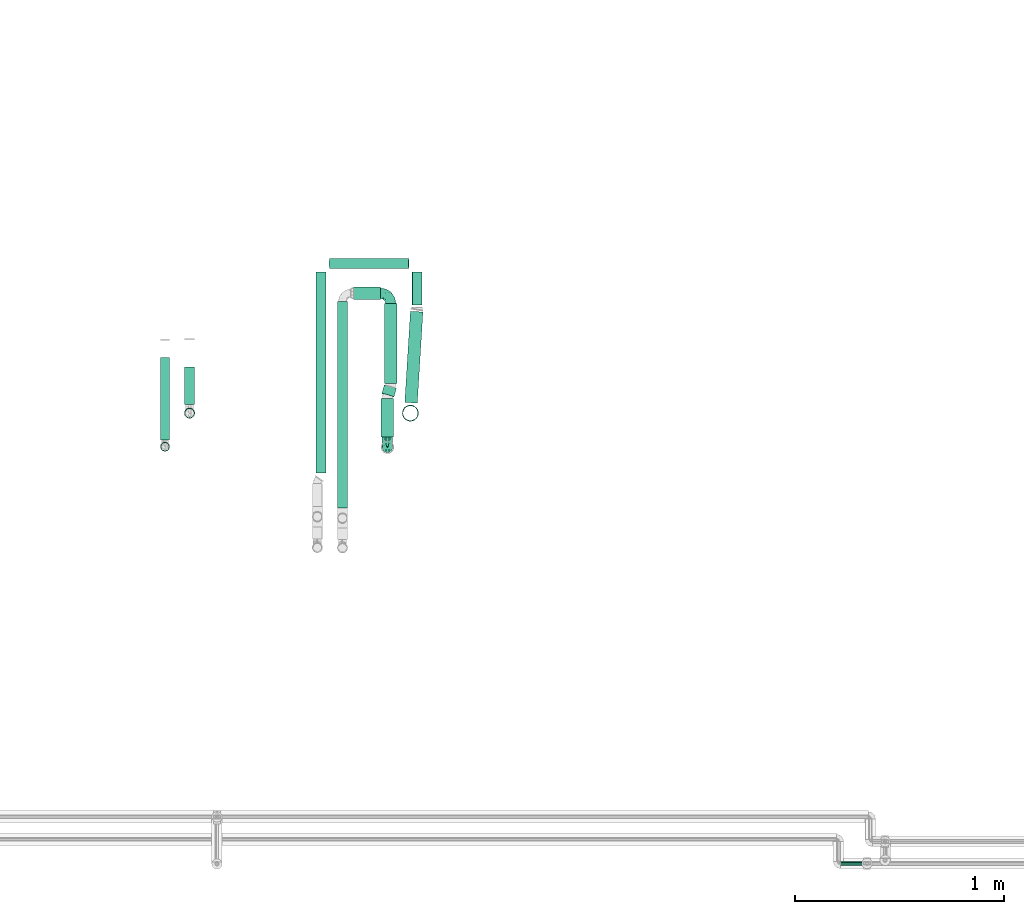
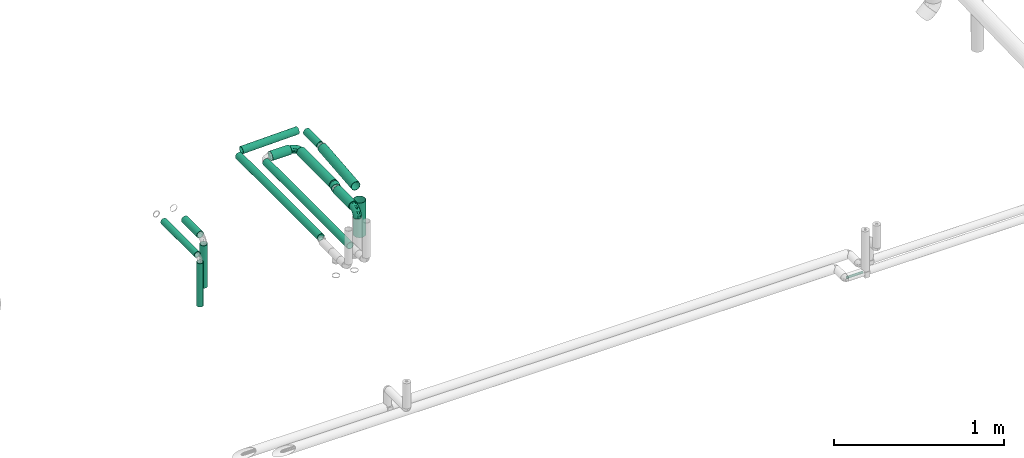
# One storey, part 75 of 156: 15 flow segments, 2 flow fittings.
"""IFC2X3 building model written with IfcOpenShell, lengths in millimetres."""

from ifc_helpers import new_model, entity, si_unit, converted_unit, derived_unit, direction, frame, origin_with_axes, origin_2d_with_axis, place, context, subcontext, project, spatial, hollow_circle, extrude, open_shell, surface_model, source, transform, mapped, type_object, element, save


model = new_model("IFC2X3")

# Units and contexts
model_context = context("Model", 3, precision=0.01, world=frame((0.0, 4.29681676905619e-09, 0.0)), true_north=direction((4.01073788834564e-13, 1.0)))
plan_context = context("Plan", 3, precision=0.01, world=frame((0.0, 4.29681676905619e-09, 0.0)), true_north=direction((4.01073788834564e-13, 1.0)))
body_context = subcontext(model_context, "Body", "Model", "MODEL_VIEW")
ifc_project = project(units=[converted_unit("PLANEANGLEUNIT", "DEGREE", entity("IfcPositiveLengthMeasure", 0.0174532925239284), si_unit("PLANEANGLEUNIT", "RADIAN"), dimensions=[0, 0, 0, 0, 0, 0, 0]), si_unit("AREAUNIT", "SQUARE_METRE"), si_unit("LENGTHUNIT", "METRE", prefix="MILLI"), si_unit("MASSUNIT", "GRAM", prefix="KILO"), si_unit("POWERUNIT", "WATT"), si_unit("PRESSUREUNIT", "PASCAL", prefix="KILO"), si_unit("FORCEUNIT", "NEWTON", prefix="KILO"), si_unit("ELECTRICVOLTAGEUNIT", "VOLT"), si_unit("ELECTRICCURRENTUNIT", "AMPERE"), si_unit("THERMODYNAMICTEMPERATUREUNIT", "DEGREE_CELSIUS"), si_unit("TIMEUNIT", "SECOND"), si_unit("VOLUMEUNIT", "CUBIC_METRE"), derived_unit("LINEARVELOCITYUNIT", [(si_unit("LENGTHUNIT", "METRE"), 1), (si_unit("TIMEUNIT", "SECOND"), -1)]), derived_unit("VOLUMETRICFLOWRATEUNIT", [(si_unit("VOLUMEUNIT", "CUBIC_METRE"), 1), (si_unit("TIMEUNIT", "SECOND"), -1)]), derived_unit("THERMALTRANSMITTANCEUNIT", [(si_unit("POWERUNIT", "WATT"), 1), (si_unit("THERMODYNAMICTEMPERATUREUNIT", "KELVIN"), -1), (si_unit("AREAUNIT", "SQUARE_METRE"), -1)]), derived_unit("SOUNDPRESSUREUNIT", [(si_unit("PRESSUREUNIT", "PASCAL"), 1)])], contexts=[model_context, plan_context])

# Site, building, storey
site_placement = place(None, frame((0.0, -4.29681676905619e-09, 0.0), z_axis=(0.0, 0.0, 1.0), x_axis=(1.0, 0.0, 0.0)))
site = spatial("IfcSite", under=ifc_project, at=site_placement, CompositionType="ELEMENT")
building_placement = place(site_placement, frame((0.0, 4.29681676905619e-09, 0.0), z_axis=(0.0, 0.0, 1.0), x_axis=(1.0, 0.0, 0.0)))
building = spatial("IfcBuilding", under=site, at=building_placement, Name="mc-building", CompositionType="ELEMENT")
storey_placement = place(building_placement, frame((0.0, 0.0, 205200.0), z_axis=(0.0, 0.0, 1.0), x_axis=(1.0, 0.0, 0.0)))
storey = spatial("IfcBuildingStorey", under=building, at=storey_placement, Name="Nivå D + 1,2 m", CompositionType="ELEMENT", Elevation=205200.0)

# Flow fittings
pipe_fitting_type = type_object("IfcPipeFittingType", Name="magi_pipe_elbow_short_001", PredefinedType="BEND")
shared_shape_1 = source(origin_with_axes(), body_context, "Body", "SurfaceModel", [
    surface_model("IfcShellBasedSurfaceModel", [(-50.0, 6.47048, -24.14815), (-50.0, 0.0, -25.0), (-50.0, 24.14815, -6.47048), (-50.0, 12.5, -21.65064), (-50.0, 21.65064, -12.5), (-50.0, 17.67767, -17.67767), (-50.0, -17.67767, -17.67767), (-50.0, -12.5, -21.65064), (-50.0, -6.47048, -24.14815), (-50.0, -21.65064, -12.5), (-50.0, -24.14815, -6.47048), (-50.0, -24.14815, 6.47048), (-50.0, -25.0, 0.0), (-50.0, 24.14815, 6.47048), (-50.0, 21.65064, 12.5), (-50.0, 6.47048, 24.14815), (-50.0, 12.5, 21.65064), (-50.0, 17.67767, 17.67767), (-50.0, -12.5, 21.65064), (-50.0, -21.65064, 12.5), (-50.0, -17.67767, 17.67767), (-50.0, -6.47048, 24.14815), (-50.0, 0.0, 25.0), (-50.0, 25.0, 0.0), (-24.14815, 50.0, -6.47048), (0.0, 50.0, -25.0), (-6.47048, 50.0, -24.14815), (-12.5, 50.0, -21.65064), (-17.67767, 50.0, -17.67767), (-21.65064, 50.0, -12.5), (17.67767, 50.0, -17.67767), (6.47048, 50.0, -24.14815), (12.5, 50.0, -21.65064), (24.14815, 50.0, -6.47048), (21.65064, 50.0, -12.5), (25.0, 50.0, 0.0), (-25.0, 50.0, 0.0), (-6.47048, 50.0, 24.14815), (-24.14815, 50.0, 6.47048), (-17.67767, 50.0, 17.67767), (-21.65064, 50.0, 12.5), (-12.5, 50.0, 21.65064), (12.5, 50.0, 21.65064), (24.14815, 50.0, 6.47048), (17.67767, 50.0, 17.67767), (21.65064, 50.0, 12.5), (6.47048, 50.0, 24.14815), (0.0, 50.0, 25.0), (-36.67735, -19.42227, 14.03433), (-32.82968, -14.42335, 18.62892), (-35.64937, -22.14548, 0.0), (-22.09962, -15.92094, 12.6179), (-33.22625, -21.82028, 7.797), (21.82028, 33.22625, 7.797), (17.64067, 19.58414, 6.40882), (19.29096, 21.29874, 0.0), (-24.43766, 39.90136, 10.86587), (-20.88421, 38.92216, 16.42417), (-36.74567, -9.45359, 22.49231), (-38.192, -3.31182, 24.57244), (-35.00811, 3.83216, 24.95739), (-9.13287, -11.16199, 0.0), (-19.58414, -17.64067, 6.40882), (-21.29874, -19.29096, 0.0), (-19.31524, -6.06759, 20.7695), (-24.88984, -0.22435, 24.23133), (-2.15147, -4.22615, 11.26442), (-0.41902, 0.51586, 14.93357), (-8.49829, -5.98681, 15.40266), (-39.08085, 20.84056, 16.4067), (-8.68866, 24.58498, 24.95514), (-18.51786, 18.51786, 24.39255), (-14.88627, 10.92479, 24.87122), (-43.25329, 15.13957, 20.3706), (-9.33205, 43.12334, 23.41697), (-3.42635, 37.39647, 24.9386), (-39.91378, 24.43361, 10.86421), (-39.52416, 26.62869, 5.49664), (-31.04081, 31.04081, 9.34521), (-38.53768, 9.80489, 23.61608), (-6.5257, 16.74435, 24.54744), (-12.42199, 4.5863, 23.34496), (-2.55398, 13.50681, 22.9747), (-4.46571, 4.46571, 20.43962), (14.42335, 32.82968, 18.62892), (15.92094, 22.09962, 12.6179), (19.42227, 36.67735, 14.03433), (-26.57791, 16.96315, 23.12353), (-27.47187, 10.70867, 24.55261), (3.31182, 38.192, 24.57244), (9.45359, 36.74567, 22.49231), (6.06759, 19.31524, 20.7695), (22.14548, 35.64937, 0.0), (-24.53158, 6.12607, 24.98933), (-23.14362, 26.40038, 20.54252), (-34.42614, 16.97043, 21.05258), (-26.31567, 40.33071, 5.36329), (-31.33209, 32.79034, 4.39983), (11.41104, 20.24921, 17.09898), (-28.34936, 37.5, 0.0), (-10.81204, 33.87561, 23.80901), (-14.26605, 25.87925, 24.03265), (-18.12489, 32.31264, 21.01179), (-19.91717, 24.20374, 22.74716), (-15.27322, 41.92094, 20.47431), (-20.24921, -11.41104, 17.09898), (-25.92754, 33.13968, 14.14974), (-26.35258, 27.91972, 17.70863), (-32.10875, 26.86285, 13.94058), (0.22435, 24.88984, 24.23133), (5.69292, 8.68334, 15.83541), (-11.86567, -11.15996, 11.73483), (1.48439, -3.24717, 6.76648), (7.59176, 4.45273, 8.73079), (7.75387, 2.59512, 3.74652), (12.87658, 10.42821, 5.90505), (12.55206, 12.96891, 10.49254), (-37.5, 28.34936, 0.0), (-6.73798, -9.94178, 7.2586), (3.03301, -3.03301, 0.0), (11.16199, 9.13287, 0.0), (-20.24921, -11.41104, -17.09898), (-32.82968, -14.42335, -18.62892), (-19.31524, -6.06759, -20.7695), (-22.09962, -15.92095, -12.6179), (-38.92216, 20.88421, -16.42417), (-41.92094, 15.27322, -20.47431), (-40.33071, 26.31567, -5.36329), (-33.22625, -21.82028, -7.797), (-31.04081, 31.0408, -9.34521), (-39.90136, 24.43766, -10.86587), (-19.58414, -17.64067, -6.40882), (-24.20374, 19.91717, -22.74716), (-25.87925, 14.26604, -24.03266), (-32.31264, 18.12489, -21.01179), (-15.13957, 43.25329, -20.3706), (-20.84057, 39.08085, -16.4067), (9.45359, 36.74567, -22.49231), (6.06759, 19.31524, -20.7695), (0.22435, 24.88984, -24.23133), (-43.12334, 9.33205, -23.41697), (-36.67735, -19.42227, -14.03433), (-36.74567, -9.45359, -22.49231), (-16.96315, 26.5779, -23.12354), (-9.80489, 38.53768, -23.61608), (-10.70867, 27.47187, -24.55261), (-38.192, -3.31182, -24.57244), (-24.58498, 8.68866, -24.95514), (-18.51786, 18.51786, -24.39255), (-10.92479, 14.88627, -24.87122), (-37.39647, 3.42635, -24.9386), (-26.62869, 39.52416, -5.49664), (-24.43361, 39.91378, -10.86421), (-33.87561, 10.81204, -23.80901), (-32.79034, 31.33209, -4.39983), (-6.12607, 24.53158, -24.98933), (-26.40038, 23.14362, -20.54252), (-16.97043, 34.42613, -21.05258), (3.31182, 38.192, -24.57244), (-3.83216, 35.00811, -24.95739), (19.42227, 36.67735, -14.03433), (14.42335, 32.82968, -18.62892), (7.75387, 2.59513, -3.74652), (12.87658, 10.42822, -5.90505), (-16.74435, 6.5257, -24.54744), (-4.5863, 12.42199, -23.34496), (-13.50681, 2.55398, -22.9747), (1.48439, -3.24717, -6.76647), (-6.73799, -9.94178, -7.2586), (-2.15147, -4.22615, -11.26442), (15.92094, 22.09962, -12.6179), (21.82028, 33.22625, -7.797), (17.64067, 19.58414, -6.40882), (-33.13968, 25.92753, -14.14974), (11.41104, 20.24921, -17.09898), (12.55206, 12.96891, -10.49254), (5.69292, 8.68334, -15.83541), (-27.91972, 26.35258, -17.70863), (-26.86285, 32.10875, -13.94058), (-24.88984, -0.22435, -24.23133), (-4.46571, 4.46571, -20.43962), (-8.49829, -5.98681, -15.40266), (-11.86568, -11.15996, -11.73483), (-0.41902, 0.51586, -14.93357), (7.59175, 4.45273, -8.73079)], [open_shell([[[0, 1, 2]], [[3, 0, 2]], [[3, 2, 4]], [[5, 3, 4]], [[6, 2, 1]], [[7, 6, 8]], [[6, 1, 8]], [[9, 10, 6]], [[10, 11, 6]], [[12, 11, 10]], [[2, 6, 13]], [[13, 6, 11]], [[14, 13, 15]], [[15, 16, 17]], [[14, 15, 17]], [[15, 13, 18]], [[19, 20, 11]], [[18, 11, 20]], [[11, 18, 13]], [[18, 21, 15]], [[21, 22, 15]], [[23, 2, 13]], [[24, 25, 26]], [[24, 26, 27]], [[28, 29, 24]], [[28, 24, 27]], [[25, 24, 30]], [[31, 30, 32]], [[31, 25, 30]], [[30, 33, 34]], [[30, 24, 33]], [[35, 33, 24]], [[24, 36, 35]], [[37, 36, 38]], [[39, 38, 40]], [[41, 37, 38]], [[41, 38, 39]], [[36, 37, 42]], [[43, 44, 45]], [[44, 43, 42]], [[36, 42, 43]], [[37, 46, 42]], [[37, 47, 46]], [[36, 43, 35]], [[20, 48, 49]], [[11, 12, 50]], [[51, 48, 52]], [[53, 54, 55]], [[48, 20, 19]], [[11, 52, 19]], [[40, 56, 57]], [[49, 18, 20]], [[49, 58, 18]], [[22, 59, 60]], [[61, 62, 63]], [[58, 64, 65]], [[66, 67, 68]], [[14, 17, 69]], [[70, 71, 72]], [[16, 73, 17]], [[21, 59, 22]], [[37, 74, 75]], [[22, 60, 15]], [[14, 69, 76]], [[17, 73, 69]], [[23, 13, 77]], [[13, 14, 76]], [[77, 76, 78]], [[15, 79, 16]], [[80, 81, 82]], [[68, 83, 64]], [[84, 44, 42]], [[85, 86, 84]], [[87, 79, 88]], [[18, 58, 21]], [[47, 89, 46]], [[53, 43, 45]], [[47, 37, 75]], [[84, 90, 91]], [[45, 86, 53]], [[92, 43, 53]], [[86, 45, 44]], [[90, 42, 46]], [[53, 55, 92]], [[88, 93, 72]], [[54, 53, 85]], [[87, 94, 95]], [[78, 96, 97]], [[98, 84, 91]], [[99, 96, 36]], [[79, 15, 60]], [[96, 78, 56]], [[62, 52, 63]], [[57, 39, 40]], [[100, 70, 75]], [[101, 102, 103]], [[11, 50, 52]], [[104, 41, 39]], [[74, 37, 41]], [[57, 102, 104]], [[105, 64, 49]], [[90, 84, 42]], [[40, 38, 56]], [[56, 106, 57]], [[102, 57, 107]], [[95, 107, 69]], [[76, 108, 78]], [[100, 101, 70]], [[89, 75, 109]], [[64, 58, 49]], [[63, 52, 50]], [[59, 58, 65]], [[105, 49, 51]], [[64, 83, 81]], [[89, 90, 46]], [[35, 43, 92]], [[109, 82, 91]], [[109, 91, 90]], [[91, 83, 110]], [[111, 68, 105]], [[66, 68, 111]], [[62, 51, 52]], [[66, 112, 113]], [[114, 115, 113]], [[98, 85, 84]], [[52, 48, 19]], [[49, 48, 51]], [[84, 86, 44]], [[53, 86, 85]], [[88, 79, 60]], [[73, 79, 95]], [[96, 56, 38]], [[78, 108, 106]], [[87, 103, 94]], [[100, 74, 104]], [[108, 69, 107]], [[78, 97, 77]], [[88, 72, 71]], [[109, 75, 70]], [[81, 72, 65]], [[70, 72, 80]], [[75, 89, 47]], [[90, 89, 109]], [[58, 59, 21]], [[60, 59, 65]], [[67, 83, 68]], [[110, 113, 116]], [[88, 60, 93]], [[87, 88, 71]], [[103, 87, 71]], [[79, 87, 95]], [[101, 103, 71]], [[94, 103, 102]], [[36, 96, 38]], [[96, 99, 97]], [[99, 117, 97]], [[97, 117, 77]], [[23, 77, 117]], [[13, 76, 77]], [[60, 65, 93]], [[65, 72, 93]], [[70, 101, 71]], [[102, 101, 100]], [[69, 108, 76]], [[106, 108, 107]], [[57, 106, 107]], [[78, 106, 56]], [[57, 104, 39]], [[100, 104, 102]], [[102, 107, 94]], [[95, 94, 107]], [[64, 81, 65]], [[82, 81, 83]], [[91, 82, 83]], [[80, 82, 109]], [[70, 80, 109]], [[81, 80, 72]], [[79, 73, 16]], [[69, 73, 95]], [[104, 74, 41]], [[75, 74, 100]], [[62, 61, 118]], [[111, 62, 118]], [[113, 115, 116]], [[119, 118, 61]], [[111, 105, 51]], [[113, 112, 114]], [[120, 55, 54]], [[68, 64, 105]], [[91, 110, 98]], [[116, 98, 110]], [[62, 111, 51]], [[66, 111, 118]], [[112, 66, 118]], [[67, 113, 110]], [[118, 119, 112]], [[114, 112, 119]], [[119, 120, 114]], [[115, 120, 54]], [[120, 115, 114]], [[116, 54, 85]], [[54, 116, 115]], [[116, 85, 98]], [[113, 67, 66]], [[83, 67, 110]], [[121, 122, 123]], [[122, 121, 124]], [[4, 125, 5]], [[5, 126, 3]], [[117, 127, 23]], [[50, 10, 128]], [[127, 129, 130]], [[128, 131, 63]], [[132, 133, 134]], [[28, 135, 136]], [[137, 138, 139]], [[3, 140, 0]], [[128, 9, 141]], [[142, 7, 8]], [[128, 63, 50]], [[4, 2, 130]], [[9, 6, 141]], [[143, 144, 145]], [[146, 8, 1]], [[147, 148, 149]], [[9, 128, 10]], [[124, 141, 122]], [[150, 1, 0]], [[151, 152, 129]], [[125, 134, 126]], [[153, 147, 150]], [[127, 154, 129]], [[145, 155, 149]], [[36, 24, 151]], [[143, 156, 157]], [[152, 24, 29]], [[25, 158, 159]], [[122, 6, 7]], [[28, 27, 135]], [[144, 27, 26]], [[30, 160, 161]], [[25, 31, 158]], [[120, 162, 163]], [[130, 125, 4]], [[28, 136, 29]], [[0, 140, 150]], [[32, 161, 137]], [[142, 122, 7]], [[25, 159, 26]], [[164, 165, 166]], [[167, 168, 169]], [[34, 160, 30]], [[161, 32, 30]], [[170, 160, 171]], [[131, 128, 124]], [[35, 92, 33]], [[33, 92, 171]], [[172, 171, 55]], [[33, 171, 34]], [[144, 26, 159]], [[130, 173, 125]], [[174, 175, 176]], [[136, 152, 29]], [[32, 137, 31]], [[122, 142, 123]], [[134, 125, 177]], [[157, 177, 136]], [[152, 178, 129]], [[153, 133, 147]], [[146, 150, 179]], [[146, 142, 8]], [[12, 10, 50]], [[179, 166, 123]], [[179, 123, 142]], [[123, 180, 181]], [[138, 137, 161]], [[55, 171, 92]], [[158, 137, 139]], [[174, 161, 170]], [[138, 180, 165]], [[180, 138, 176]], [[124, 121, 182]], [[176, 183, 180]], [[61, 131, 168]], [[169, 168, 182]], [[172, 170, 171]], [[122, 141, 6]], [[128, 141, 124]], [[171, 160, 34]], [[161, 160, 170]], [[145, 144, 159]], [[135, 144, 157]], [[127, 130, 2]], [[129, 178, 173]], [[143, 132, 156]], [[153, 140, 126]], [[178, 136, 177]], [[129, 154, 151]], [[145, 149, 148]], [[179, 150, 147]], [[165, 149, 139]], [[147, 149, 164]], [[150, 146, 1]], [[142, 146, 179]], [[137, 158, 31]], [[159, 158, 139]], [[174, 138, 161]], [[184, 169, 183]], [[145, 159, 155]], [[143, 145, 148]], [[132, 143, 148]], [[144, 143, 157]], [[133, 132, 148]], [[156, 132, 134]], [[23, 127, 2]], [[127, 117, 154]], [[117, 99, 154]], [[154, 99, 151]], [[36, 151, 99]], [[24, 152, 151]], [[159, 139, 155]], [[139, 149, 155]], [[147, 133, 148]], [[134, 133, 153]], [[136, 178, 152]], [[173, 178, 177]], [[125, 173, 177]], [[129, 173, 130]], [[125, 126, 5]], [[153, 126, 134]], [[134, 177, 156]], [[157, 156, 177]], [[138, 165, 139]], [[166, 165, 180]], [[123, 166, 180]], [[164, 166, 179]], [[147, 164, 179]], [[165, 164, 149]], [[144, 135, 27]], [[136, 135, 157]], [[126, 140, 3]], [[150, 140, 153]], [[182, 131, 124]], [[168, 119, 61]], [[119, 167, 162]], [[63, 131, 61]], [[172, 163, 175]], [[172, 55, 120]], [[123, 181, 121]], [[182, 121, 181]], [[175, 174, 170]], [[176, 138, 174]], [[169, 182, 181]], [[131, 182, 168]], [[183, 169, 181]], [[167, 169, 184]], [[162, 167, 184]], [[119, 168, 167]], [[163, 162, 184]], [[120, 119, 162]], [[175, 163, 184]], [[120, 163, 172]], [[176, 175, 184]], [[172, 175, 170]], [[180, 183, 181]], [[184, 183, 176]]])]),
])
for number, where, z_axis, x_axis, name in (
    (1, (343848.85487, 460803.54788, 4254.42444999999), (-1.0, 0.0, 0.0), (0.0, 0.0, 1.0), "magi_pipe_elbow_short_001"),
    (2, (343864.59753, 461539.79788, 4249.39240000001), (0.0, 0.0, 1.0), (0.0, 1.0, 0.0), "magi_pipe_elbow_short_001"),
):
    element("IfcFlowFitting", number, at=place(storey_placement, frame(where, z_axis=z_axis, x_axis=x_axis)), inside=storey, type_object=pipe_fitting_type, Name=name, context=body_context, shape_type="MappedRepresentation", body=[
        mapped(shared_shape_1, transform((0.0, 0.0, 0.0), scale=1.0)),
    ])

# Flow segments
pipe_segment_type = type_object("IfcPipeSegmentType", Name="Stålrør normaltykke", PredefinedType="RIGIDSEGMENT")
shared_shape_2 = source(origin_with_axes(), body_context, "Body", "SweptSolid", [
    extrude(hollow_circle(Radius=21.2, WallThickness=2.0, at=origin_2d_with_axis()), frame((0.0, 0.0, 0.0), z_axis=(1.0, 0.0, 0.0), x_axis=(0.0, 1.0, 0.0)), (0.0, 0.0, 1.0), 310.9),
])
flow_segment_1_placement = place(storey_placement, frame((342785.41942, 460806.04788, 3941.57445000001), z_axis=(0.0, 1.0, 0.0), x_axis=(0.0, 0.0, 1.0)))
element("IfcFlowSegment", 3, at=flow_segment_1_placement, inside=storey, type_object=pipe_segment_type, Name="Stålrør normaltykke", context=body_context, shape_type="MappedRepresentation", body=[
    mapped(shared_shape_2, transform((0.0, 0.0, 0.0), scale=1.0)),
])
shared_shape_3 = source(origin_with_axes(), body_context, "Body", "SweptSolid", [
    extrude(hollow_circle(Radius=30.1, WallThickness=2.0, at=origin_2d_with_axis()), frame((0.0, 0.0, 0.0), z_axis=(1.0, 0.0, 0.0), x_axis=(0.0, 1.0, 0.0)), (0.0, 0.0, 1.0), 382.6),
])
flow_segment_2_placement = place(storey_placement, frame((343864.59753, 461107.23306, 4249.39240000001), z_axis=(-0.952522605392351, 0.0, 0.304467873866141), x_axis=(0.0, 1.0, 0.0)))
element("IfcFlowSegment", 4, at=flow_segment_2_placement, inside=storey, type_object=pipe_segment_type, Name="Stålrør normaltykke", context=body_context, shape_type="MappedRepresentation", body=[
    mapped(shared_shape_3, transform((0.0, 0.0, 0.0), scale=1.0)),
])
shared_shape_4 = source(origin_with_axes(), body_context, "Body", "SweptSolid", [
    extrude(hollow_circle(Radius=30.1, WallThickness=2.0, at=origin_2d_with_axis()), frame((0.0, 0.0, 0.0), z_axis=(1.0, 0.0, 0.0), x_axis=(0.0, 1.0, 0.0)), (0.0, 0.0, 1.0), 128.7),
])
flow_segment_3_placement = place(storey_placement, frame((343814.59753, 461539.79788, 4249.39240000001), z_axis=(0.0, 0.0, 1.0), x_axis=(-1.0, 0.0, 0.0)))
element("IfcFlowSegment", 5, at=flow_segment_3_placement, inside=storey, type_object=pipe_segment_type, Name="Stålrør normaltykke", context=body_context, shape_type="MappedRepresentation", body=[
    mapped(shared_shape_4, transform((0.0, 0.0, 0.0), scale=1.0)),
])
shared_shape_5 = source(origin_with_axes(), body_context, "Body", "SweptSolid", [
    extrude(hollow_circle(Radius=30.1, WallThickness=2.0, at=origin_2d_with_axis()), frame((0.0, 0.0, 0.0), z_axis=(1.0, 0.0, 0.0), x_axis=(0.0, 1.0, 0.0)), (0.0, 0.0, 1.0), 183.7),
])
flow_segment_4_placement = place(storey_placement, frame((343848.85487, 460853.54788, 4254.42444999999), z_axis=(0.0, 0.0, 1.0), x_axis=(0.0, 1.0, 0.0)))
element("IfcFlowSegment", 6, at=flow_segment_4_placement, inside=storey, type_object=pipe_segment_type, Name="Stålrør normaltykke", context=body_context, shape_type="MappedRepresentation", body=[
    mapped(shared_shape_5, transform((0.0, 0.0, 0.0), scale=1.0)),
])
shared_shape_6 = source(origin_with_axes(), body_context, "Body", "SweptSolid", [
    extrude(hollow_circle(Radius=30.1, WallThickness=2.0, at=origin_2d_with_axis()), frame((0.0, 0.0, 0.0), z_axis=(1.0, 0.0, 0.0), x_axis=(0.0, 1.0, 0.0)), (0.0, 0.0, 1.0), 43.2),
])
flow_segment_5_placement = place(storey_placement, frame((343862.60672, 461092.92794, 4250.02875), z_axis=(-0.912706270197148, 0.286102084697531, 0.291741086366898), x_axis=(-0.272518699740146, -0.958199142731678, 0.0871089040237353)))
element("IfcFlowSegment", 7, at=flow_segment_5_placement, inside=storey, type_object=pipe_segment_type, Name="Stålrør normaltykke", context=body_context, shape_type="MappedRepresentation", body=[
    mapped(shared_shape_6, transform((0.0, 0.0, 0.0), scale=1.0)),
])
shared_shape_7 = source(origin_with_axes(), body_context, "Body", "SweptSolid", [
    extrude(hollow_circle(Radius=24.1, WallThickness=2.0, at=origin_2d_with_axis()), frame((0.0, 0.0, 0.0), z_axis=(1.0, 0.0, 0.0), x_axis=(0.0, 1.0, 0.0)), (0.0, 0.0, 1.0), 986.8),
])
flow_segment_6_placement = place(storey_placement, frame((343633.85487, 460512.96688, 4249.42444999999), z_axis=(0.0, 0.0, 1.0), x_axis=(0.0, 1.0, 0.0)))
element("IfcFlowSegment", 8, at=flow_segment_6_placement, inside=storey, type_object=pipe_segment_type, Name="Stålrør normaltykke", context=body_context, shape_type="MappedRepresentation", body=[
    mapped(shared_shape_7, transform((0.0, 0.0, 0.0), scale=1.0)),
])
shared_shape_8 = source(origin_with_axes(), body_context, "Body", "SweptSolid", [
    extrude(hollow_circle(Radius=38.0, WallThickness=2.0, at=origin_2d_with_axis()), frame((0.0, 0.0, 0.0), z_axis=(1.0, 0.0, 0.0), x_axis=(0.0, 1.0, 0.0)), (0.0, 0.0, 1.0), 247.3),
])
flow_segment_7_placement = place(storey_placement, frame((343958.62466, 460966.4002, 3942.30333), z_axis=(0.0, 1.0, 0.0), x_axis=(0.0, 0.0, 1.0)))
element("IfcFlowSegment", 9, at=flow_segment_7_placement, inside=storey, type_object=pipe_segment_type, Name="Stålrør normaltykke", context=body_context, shape_type="MappedRepresentation", body=[
    mapped(shared_shape_8, transform((0.0, 0.0, 0.0), scale=1.0)),
])
shared_shape_9 = source(origin_with_axes(), body_context, "Body", "SweptSolid", [
    extrude(hollow_circle(Radius=24.1, WallThickness=2.0, at=origin_2d_with_axis()), frame((0.0, 0.0, 0.0), z_axis=(1.0, 0.0, 0.0), x_axis=(0.0, 1.0, 0.0)), (0.0, 0.0, 1.0), 304.6),
])
flow_segment_8_placement = place(storey_placement, frame((342902.82938, 460966.47736, 3939.80366000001), z_axis=(0.0, 0.999999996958, -7.7999999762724e-05), x_axis=(0.0, 7.7999999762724e-05, 0.999999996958)))
element("IfcFlowSegment", 10, at=flow_segment_8_placement, inside=storey, type_object=pipe_segment_type, Name="Stålrør normaltykke", context=body_context, shape_type="MappedRepresentation", body=[
    mapped(shared_shape_9, transform((0.0, 0.0, 0.0), scale=1.0)),
])
shared_shape_10 = source(origin_with_axes(), body_context, "Body", "SweptSolid", [
    extrude(hollow_circle(Radius=24.1, WallThickness=2.0, at=origin_2d_with_axis()), frame((0.0, 0.0, 0.0), z_axis=(1.0, 0.0, 0.0), x_axis=(0.0, 1.0, 0.0)), (0.0, 0.0, 1.0), 157.6),
])
flow_segment_9_placement = place(storey_placement, frame((343991.12466, 461484.02787, 4255.43497999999), z_axis=(0.0, 0.0, 1.0), x_axis=(0.0, 1.0, 0.0)))
element("IfcFlowSegment", 11, at=flow_segment_9_placement, inside=storey, type_object=pipe_segment_type, Name="Stålrør normaltykke", context=body_context, shape_type="MappedRepresentation", body=[
    mapped(shared_shape_10, transform((0.0, 0.0, 0.0), scale=1.0)),
])
shared_shape_11 = source(origin_with_axes(), body_context, "Body", "SweptSolid", [
    extrude(hollow_circle(Radius=30.1, WallThickness=2.0, at=origin_2d_with_axis()), frame((0.0, 0.0, 0.0), z_axis=(1.0, 0.0, 0.0), x_axis=(0.0, 1.0, 0.0)), (0.0, 0.0, 1.0), 436.5),
])
flow_segment_10_placement = place(storey_placement, frame((343988.66176, 461451.93016, 4255.43497999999), z_axis=(0.0, 0.0, 1.0), x_axis=(-0.0617469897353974, -0.998091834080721, 0.0)))
element("IfcFlowSegment", 12, at=flow_segment_10_placement, inside=storey, type_object=pipe_segment_type, Name="Stålrør normaltykke", context=body_context, shape_type="MappedRepresentation", body=[
    mapped(shared_shape_11, transform((0.0, 0.0, 0.0), scale=1.0)),
])
shared_shape_12 = source(origin_with_axes(), body_context, "Body", "SweptSolid", [
    extrude(hollow_circle(Radius=24.1, WallThickness=2.0, at=origin_2d_with_axis()), frame((0.0, 0.0, 0.0), z_axis=(1.0, 0.0, 0.0), x_axis=(0.0, 1.0, 0.0)), (0.0, 0.0, 1.0), 380.1),
])
flow_segment_11_placement = place(storey_placement, frame((343571.1127, 461681.59861, 4245.16295), z_axis=(-0.0244490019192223, 0.0, 0.999701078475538), x_axis=(0.999701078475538, 0.0, 0.0244490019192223)))
element("IfcFlowSegment", 13, at=flow_segment_11_placement, inside=storey, type_object=pipe_segment_type, Name="Stålrør normaltykke", context=body_context, shape_type="MappedRepresentation", body=[
    mapped(shared_shape_12, transform((0.0, 0.0, 0.0), scale=1.0)),
])
shared_shape_13 = source(origin_with_axes(), body_context, "Body", "SweptSolid", [
    extrude(hollow_circle(Radius=24.1, WallThickness=2.0, at=origin_2d_with_axis()), frame((0.0, 0.0, 0.0), z_axis=(1.0, 0.0, 0.0), x_axis=(0.0, 1.0, 0.0)), (0.0, 0.0, 1.0), 962.4),
])
flow_segment_12_placement = place(storey_placement, frame((343531.12466, 461641.59861, 4244.18497999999), z_axis=(0.0, 0.0, 1.0), x_axis=(0.0, -1.0, 0.0)))
element("IfcFlowSegment", 14, at=flow_segment_12_placement, inside=storey, type_object=pipe_segment_type, Name="Stålrør normaltykke", context=body_context, shape_type="MappedRepresentation", body=[
    mapped(shared_shape_13, transform((0.0, 0.0, 0.0), scale=1.0)),
])
shared_shape_14 = source(origin_with_axes(), body_context, "Body", "SweptSolid", [
    extrude(hollow_circle(Radius=8.6, WallThickness=2.0, at=origin_2d_with_axis()), frame((0.0, 0.0, 0.0), z_axis=(1.0, 0.0, 0.0), x_axis=(0.0, 1.0, 0.0)), (0.0, 0.0, 1.0), 109.4),
])
flow_segment_13_placement = place(storey_placement, frame((346015.0, 458813.61963, 4216.68835000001), z_axis=(0.0, 0.0, 1.0), x_axis=(1.0, 0.0, 0.0)))
element("IfcFlowSegment", 15, at=flow_segment_13_placement, inside=storey, type_object=pipe_segment_type, Name="Stålrør normaltykke", context=body_context, shape_type="MappedRepresentation", body=[
    mapped(shared_shape_14, transform((0.0, 0.0, 0.0), scale=1.0)),
])
shared_shape_15 = source(origin_with_axes(), body_context, "Body", "SweptSolid", [
    extrude(hollow_circle(Radius=21.2, WallThickness=2.0, at=origin_2d_with_axis()), frame((0.0, 0.0, 0.0), z_axis=(1.0, 0.0, 0.0), x_axis=(0.0, 1.0, 0.0)), (0.0, 0.0, 1.0), 393.5),
])
flow_segment_14_placement = place(storey_placement, frame((342785.41942, 460838.04788, 4284.42444999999), z_axis=(0.0, 0.0, 1.0), x_axis=(0.0, 1.0, 0.0)))
element("IfcFlowSegment", 16, at=flow_segment_14_placement, inside=storey, type_object=pipe_segment_type, Name="Stålrør normaltykke", context=body_context, shape_type="MappedRepresentation", body=[
    mapped(shared_shape_15, transform((0.0, 0.0, 0.0), scale=1.0)),
])
shared_shape_16 = source(origin_with_axes(), body_context, "Body", "SweptSolid", [
    extrude(hollow_circle(Radius=24.1, WallThickness=2.0, at=origin_2d_with_axis()), frame((0.0, 0.0, 0.0), z_axis=(1.0, 0.0, 0.0), x_axis=(0.0, 1.0, 0.0)), (0.0, 0.0, 1.0), 180.4),
])
flow_segment_15_placement = place(storey_placement, frame((342902.82938, 461006.59861, 4284.42444999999), z_axis=(0.0, 0.0, 1.0), x_axis=(0.0, 1.0, 0.0)))
element("IfcFlowSegment", 17, at=flow_segment_15_placement, inside=storey, type_object=pipe_segment_type, Name="Stålrør normaltykke", context=body_context, shape_type="MappedRepresentation", body=[
    mapped(shared_shape_16, transform((0.0, 0.0, 0.0), scale=1.0)),
])

save(model, "model.ifc")
